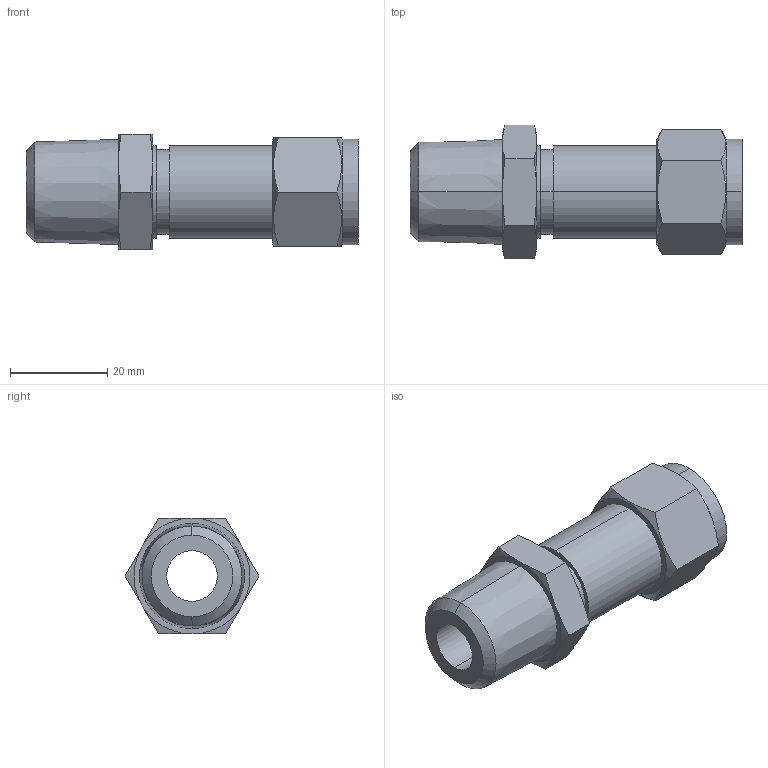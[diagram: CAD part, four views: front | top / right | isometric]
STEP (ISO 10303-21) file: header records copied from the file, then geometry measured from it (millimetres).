
FILE_DESCRIPTION (( 'STEP AP203' ), '1' );
FILE_NAME ('DSC08-08 SS.STEP', '2009-09-08T09:01:11', ( ' ' ), ( '' ), 'SwSTEP 2.0', 'SolidWorks 2008', '' );
FILE_SCHEMA (( 'CONFIG_CONTROL_DESIGN' ));
Length unit declared in the file: millimetre
Products named in the file (1): DSC08-08 SS
Bounding box: 68.2 x 27.49 x 23.81 mm (x, y, z)
Volume: 17333.6 mm3; surface area: 8012 mm2
Topology: 1 solids, 1 shells, 52 faces, 116 edges, 72 vertices
Faces by surface type: cone 20, plane 20, cylinder 12
Entity records: 1693 total; most frequent: CARTESIAN_POINT 497, ORIENTED_EDGE 232, DIRECTION 226, EDGE_CURVE 116, AXIS2_PLACEMENT_3D 97, VERTEX_POINT 72, EDGE_LOOP 60, ADVANCED_FACE 52
